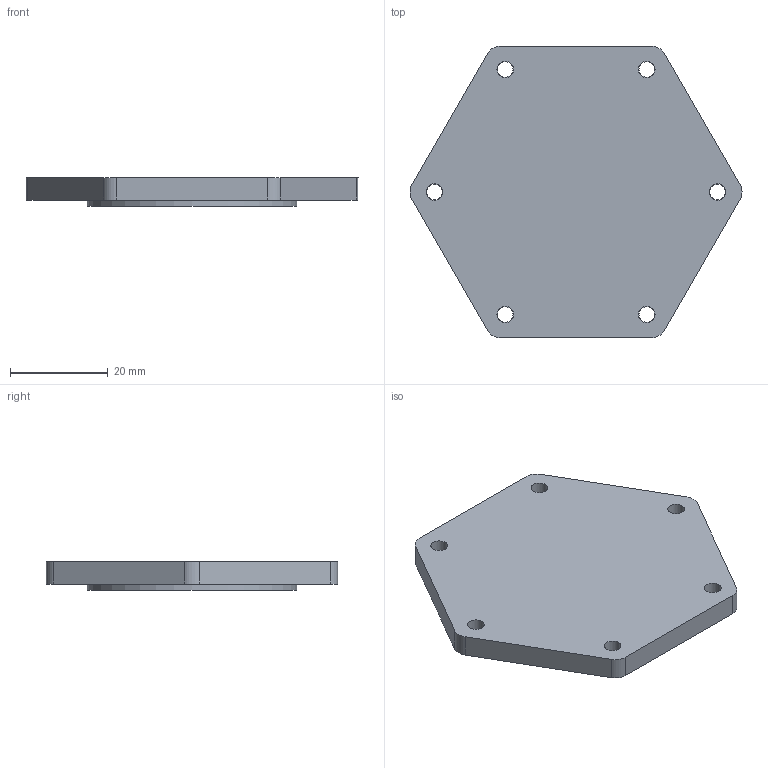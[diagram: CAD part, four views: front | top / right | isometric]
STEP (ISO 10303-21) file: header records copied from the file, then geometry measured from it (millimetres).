
FILE_DESCRIPTION(('FreeCAD Model'),'2;1');
FILE_NAME('Open CASCADE Shape Model','2025-02-21T19:42:10',(''),(''), 'Open CASCADE STEP processor 7.6','FreeCAD','Unknown');
FILE_SCHEMA(('AUTOMOTIVE_DESIGN { 1 0 10303 214 1 1 1 1 }'));
Length unit declared in the file: millimetre
Products named in the file (3): DomeD45HFlat; DomeD45H0; DomeD45H001
Assembly tree (2 placements, depth 2):
  DomeD45HFlat
    DomeD45H0
    DomeD45H001
Bounding box: 68.01 x 59.7 x 5.9 mm (x, y, z)
Volume: 10687.1 mm3; surface area: 8920.1 mm2
Topology: 2 solids, 2 shells, 40 faces, 84 edges, 56 vertices
Faces by surface type: cylinder 22, plane 18
Full cylindrical faces by diameter (mm): 3.2 x6, 3.4 x6, 41 x1, 43 x1, 45.8 x1, 52 x1
Entity records: 1186 total; most frequent: DIRECTION 214, CARTESIAN_POINT 183, ORIENTED_EDGE 168, AXIS2_PLACEMENT_3D 87, EDGE_CURVE 84, FACE_BOUND 62, EDGE_LOOP 62, VERTEX_POINT 56
